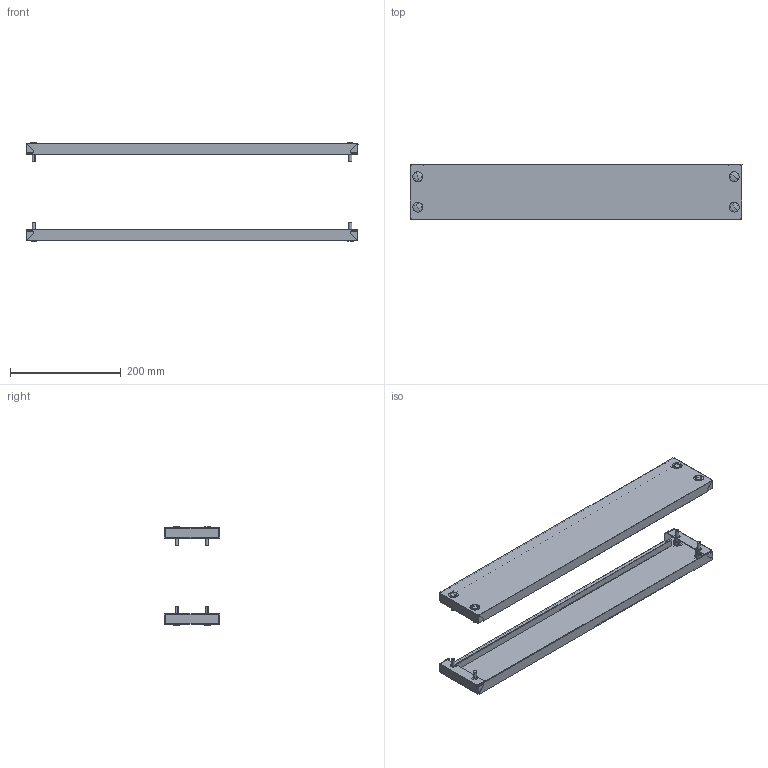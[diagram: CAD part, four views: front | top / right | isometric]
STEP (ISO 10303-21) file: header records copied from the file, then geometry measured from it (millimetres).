
FILE_DESCRIPTION (( 'STEP AP203' ), '1' );
FILE_NAME ('R5FZ6-200.STEP', '2025-06-18T08:37:10', ( '' ), ( '' ), 'SwSTEP 2.0', 'SolidWorks 2022', '' );
FILE_SCHEMA (( 'CONFIG_CONTROL_DESIGN' ));
Length unit declared in the file: millimetre
Products named in the file (5): RB.1055.00.00.0 simple_-02 (600); R5FZ6-200; M6x16 DIN 912 HX cl.4,8 Zinc_stright; 6 DIN 6798 A Zinc; Plug_11.5-13Д18ЧК_-00
Assembly tree (26 placements, depth 2):
  R5FZ6-200
    RB.1055.00.00.0 simple_-02 (600)  x2
    M6x16 DIN 912 HX cl.4,8 Zinc_stright  x8
    6 DIN 6798 A Zinc  x8
    Plug_11.5-13Д18ЧК_-00  x8
Bounding box: 599 x 100.05 x 178.5 mm (x, y, z)
Volume: 294956.8 mm3; surface area: 400063.7 mm2
Topology: 26 solids, 26 shells, 1196 faces, 3456 edges, 2112 vertices
Faces by surface type: plane 700, bspline 208, cylinder 128, cone 96, torus 48, sphere 16
Entity records: 9921 total; most frequent: CARTESIAN_POINT 2626, ORIENTED_EDGE 1352, DIRECTION 1188, EDGE_CURVE 676, VECTOR 448, LINE 448, VERTEX_POINT 444, AXIS2_PLACEMENT_3D 370
